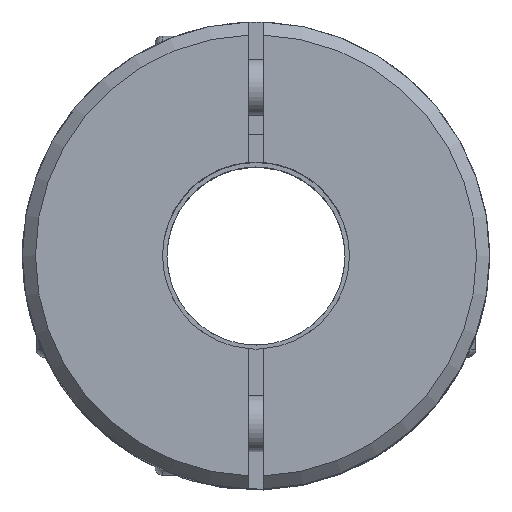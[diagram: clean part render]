
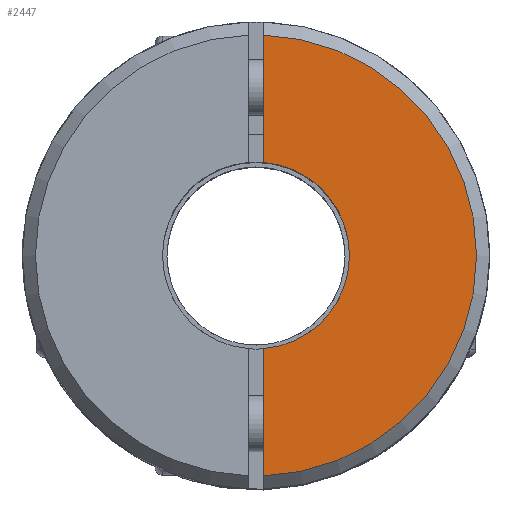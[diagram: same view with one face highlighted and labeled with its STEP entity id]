
A CAD part, top view. The second image highlights one B-rep face of the part: STEP entity #2447.
In plain terms, the highlighted planar face has unit normal (0, 0, 1).
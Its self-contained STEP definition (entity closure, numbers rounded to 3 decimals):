
#27 = DIRECTION ( 'NONE',  ( 0., 1., 0. ) ) ;
#28 = AXIS2_PLACEMENT_3D ( 'NONE', #1350, #2374, #2067 ) ;
#309 = LINE ( 'NONE', #2368, #2295 ) ;
#347 = EDGE_CURVE ( 'NONE', #4139, #1589, #1275, .T. ) ;
#415 = DIRECTION ( 'NONE',  ( 0., 0., 1. ) ) ;
#473 = AXIS2_PLACEMENT_3D ( 'NONE', #3685, #3614, #882 ) ;
#684 = VERTEX_POINT ( 'NONE', #1233 ) ;
#843 = CARTESIAN_POINT ( 'NONE',  ( 0.4, -11.793, 15.5 ) ) ;
#851 = VECTOR ( 'NONE', #1417, 1000. ) ;
#882 = DIRECTION ( 'NONE',  ( 0., 1., 0. ) ) ;
#1233 = CARTESIAN_POINT ( 'NONE',  ( 0.4, 4.984, 15.5 ) ) ;
#1275 = CIRCLE ( 'NONE', #3797, 11.8 ) ;
#1350 = CARTESIAN_POINT ( 'NONE',  ( 0., 0., 15.5 ) ) ;
#1417 = DIRECTION ( 'NONE',  ( 0., -1., 0. ) ) ;
#1433 = EDGE_LOOP ( 'NONE', ( #3853, #2333, #2394, #1519 ) ) ;
#1519 = ORIENTED_EDGE ( 'NONE', *, *, #347, .T. ) ;
#1589 = VERTEX_POINT ( 'NONE', #3364 ) ;
#1743 = PLANE ( 'NONE',  #473 ) ;
#1853 = CARTESIAN_POINT ( 'NONE',  ( 0.4, -4.984, 15.5 ) ) ;
#1995 = CIRCLE ( 'NONE', #28, 5. ) ;
#2067 = DIRECTION ( 'NONE',  ( 1., 0., 0. ) ) ;
#2295 = VECTOR ( 'NONE', #2319, 1000. ) ;
#2319 = DIRECTION ( 'NONE',  ( 0., -1., 0. ) ) ;
#2321 = EDGE_CURVE ( 'NONE', #4181, #684, #1995, .T. ) ;
#2333 = ORIENTED_EDGE ( 'NONE', *, *, #2321, .F. ) ;
#2368 = CARTESIAN_POINT ( 'NONE',  ( 0.4, 15., 15.5 ) ) ;
#2374 = DIRECTION ( 'NONE',  ( 0., 0., 1. ) ) ;
#2394 = ORIENTED_EDGE ( 'NONE', *, *, #2395, .T. ) ;
#2395 = EDGE_CURVE ( 'NONE', #4181, #4139, #2537, .T. ) ;
#2447 = ADVANCED_FACE ( 'NONE', ( #3497 ), #1743, .F. ) ;
#2469 = CARTESIAN_POINT ( 'NONE',  ( 0.4, 15., 15.5 ) ) ;
#2537 = LINE ( 'NONE', #2469, #851 ) ;
#2621 = EDGE_CURVE ( 'NONE', #1589, #684, #309, .T. ) ;
#3364 = CARTESIAN_POINT ( 'NONE',  ( 0.4, 11.793, 15.5 ) ) ;
#3497 = FACE_OUTER_BOUND ( 'NONE', #1433, .T. ) ;
#3614 = DIRECTION ( 'NONE',  ( 0., 0., -1. ) ) ;
#3685 = CARTESIAN_POINT ( 'NONE',  ( 0., 1.5, 15.5 ) ) ;
#3797 = AXIS2_PLACEMENT_3D ( 'NONE', #4273, #415, #27 ) ;
#3853 = ORIENTED_EDGE ( 'NONE', *, *, #2621, .T. ) ;
#4139 = VERTEX_POINT ( 'NONE', #843 ) ;
#4181 = VERTEX_POINT ( 'NONE', #1853 ) ;
#4273 = CARTESIAN_POINT ( 'NONE',  ( 0., 0., 15.5 ) ) ;
